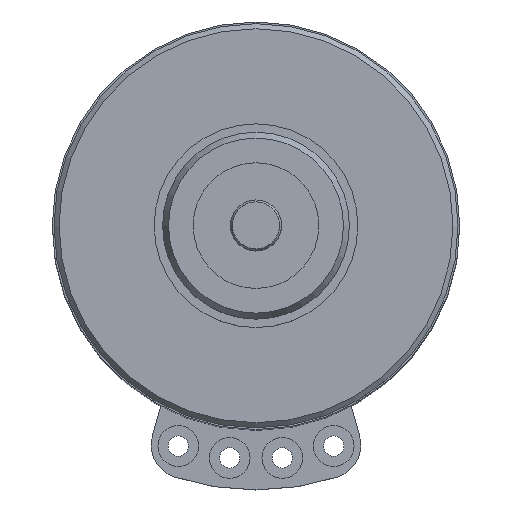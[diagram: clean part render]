
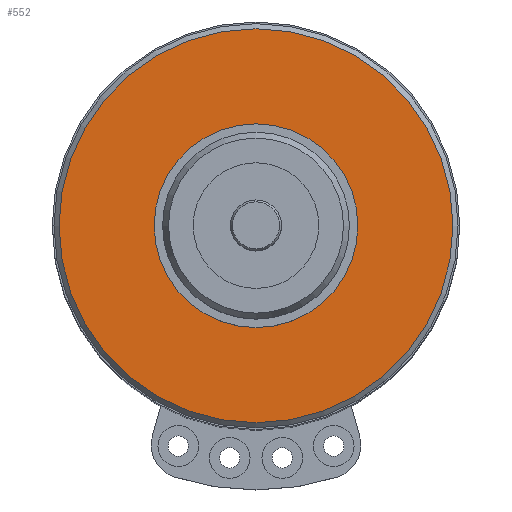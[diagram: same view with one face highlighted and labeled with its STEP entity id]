
A CAD part, top view. The second image highlights one B-rep face of the part: STEP entity #552.
In plain terms, the highlighted planar face has unit normal (0, 0, 1).
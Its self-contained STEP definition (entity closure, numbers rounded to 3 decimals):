
#437=FACE_BOUND('',#906,.T.);
#438=FACE_BOUND('',#907,.T.);
#552=ADVANCED_FACE('',(#437,#438),#701,.T.);
#701=PLANE('',#2586);
#906=EDGE_LOOP('',(#1341));
#907=EDGE_LOOP('',(#1342));
#1341=ORIENTED_EDGE('',*,*,#2201,.F.);
#1342=ORIENTED_EDGE('',*,*,#2202,.T.);
#1973=VERTEX_POINT('',#3282);
#1974=VERTEX_POINT('',#3284);
#2201=EDGE_CURVE('',#1973,#1973,#2517,.T.);
#2202=EDGE_CURVE('',#1974,#1974,#2518,.T.);
#2517=CIRCLE('',#2584,3.);
#2518=CIRCLE('',#2585,5.8);
#2584=AXIS2_PLACEMENT_3D('',#3281,#2790,#2791);
#2585=AXIS2_PLACEMENT_3D('',#3283,#2792,#2793);
#2586=AXIS2_PLACEMENT_3D('',#3285,#2794,#2795);
#2790=DIRECTION('',(0.,0.,1.));
#2791=DIRECTION('',(1.,0.,0.));
#2792=DIRECTION('',(0.,0.,1.));
#2793=DIRECTION('',(1.,0.,0.));
#2794=DIRECTION('',(0.,0.,1.));
#2795=DIRECTION('',(1.,0.,0.));
#3281=CARTESIAN_POINT('',(0.,0.,0.));
#3282=CARTESIAN_POINT('',(3.,0.,0.));
#3283=CARTESIAN_POINT('',(0.,0.,0.));
#3284=CARTESIAN_POINT('',(5.8,0.,0.));
#3285=CARTESIAN_POINT('',(5.95,0.,0.));
